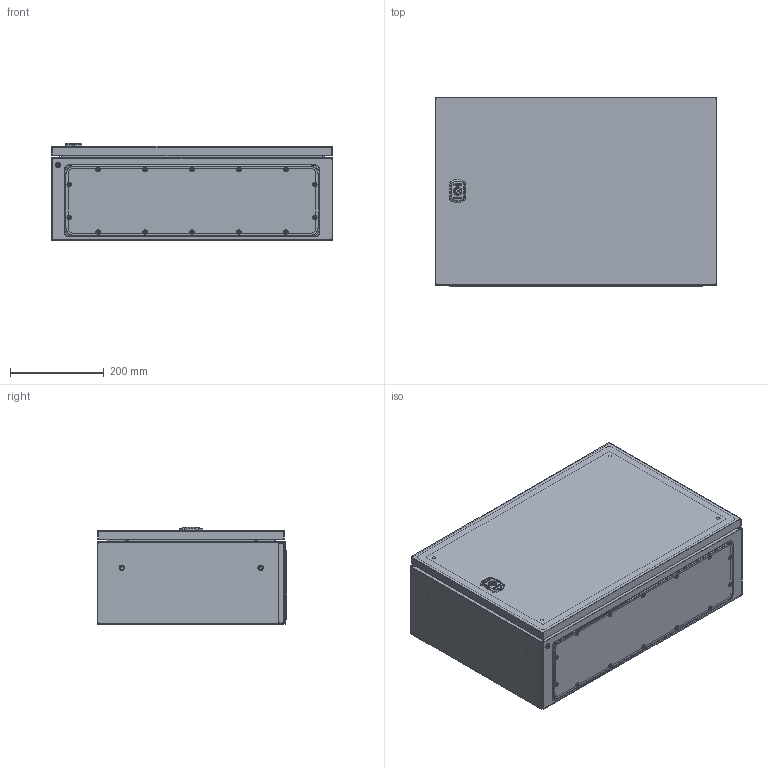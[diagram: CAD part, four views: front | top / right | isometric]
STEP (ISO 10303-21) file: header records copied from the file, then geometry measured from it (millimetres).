
FILE_DESCRIPTION(('Open CASCADE Model'),'2;1');
FILE_NAME('Open CASCADE Shape Model','2025-02-28T16:25:21',('Author'),( 'Open CASCADE'),'Open CASCADE STEP processor 7.8','Open CASCADE 7.8' ,'Unknown');
FILE_SCHEMA(('AUTOMOTIVE_DESIGN { 1 0 10303 214 1 1 1 1 }'));
Length unit declared in the file: millimetre
Products named in the file (32): Compound1; Compound2; Compound3; Compound4; Solid1; Solid2; Solid3; Solid4; Compound5; Solid5; Solid6; Solid7; Solid8; Compound6; Solid9; Solid10; Solid11; Solid12; Solid13; Compound7; Compound8; Solid14; Solid15; Solid16; Compound9; Solid17; Solid18; Solid19; Solid20; Solid21; Solid22; Solid23
Assembly tree (67 placements, depth 5):
  Compound1
    Compound2
      Compound3
        Compound4
          Solid1
          Solid2
          Solid3  x4
          Solid4  x4
        Compound5  x2
          Solid5
        Solid6  x2
        Solid7  x2
        Solid8  x2
      Compound6
        Solid9
        Solid10
      Solid11
      Solid12  x4
      Solid13  x4
      Compound7
        Compound8
          Solid14
          Solid15  x4
        Solid16
        Compound9
          Solid17
          Solid18
          Solid19
          Solid20
          Solid21
      Solid22  x2
    Solid23  x5
    Solid22  x12
Bounding box: 600 x 403.5 x 208.01 mm (x, y, z)
Volume: 1883292.4 mm3; surface area: 2513140 mm2
Topology: 59 solids, 59 shells, 3442 faces, 8609 edges, 5399 vertices
Faces by surface type: plane 1565, cylinder 839, bspline 348, cone 346, torus 304, sphere 36, revolution 4
Full cylindrical faces by diameter (mm): 3.2 x14, 5.5 x4, 6.8 x1, 8 x1
Entity records: 174425 total; most frequent: CARTESIAN_POINT 114136, ORIENTED_EDGE 12854, DIRECTION 11824, EDGE_CURVE 6427, AXIS2_PLACEMENT_3D 4159, VERTEX_POINT 4110, LINE 3502, VECTOR 3502
